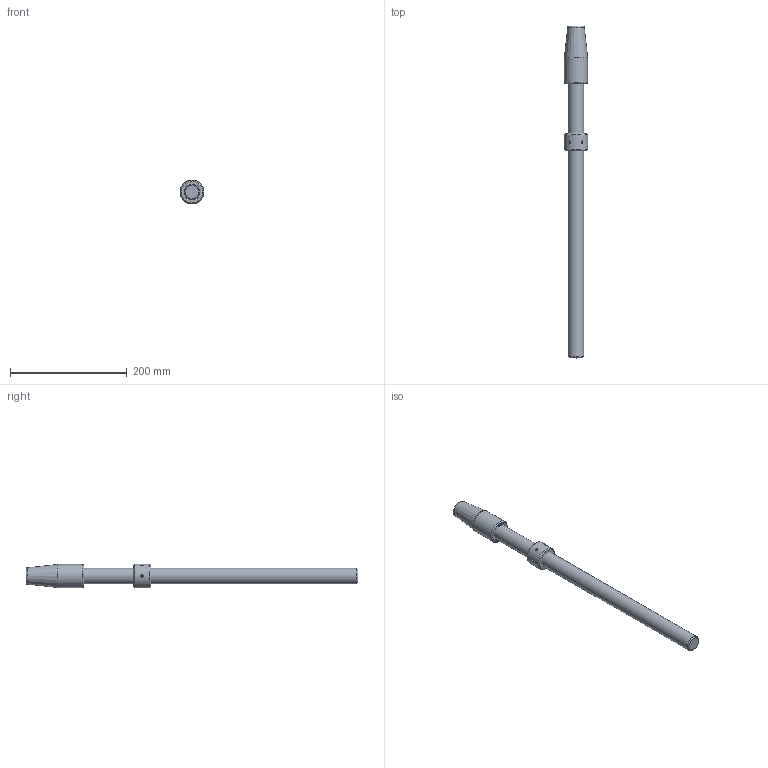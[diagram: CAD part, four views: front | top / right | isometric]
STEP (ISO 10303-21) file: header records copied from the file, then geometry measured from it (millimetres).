
FILE_DESCRIPTION(/* description */ (''),/* implementation_level */ '2;1');
FILE_NAME(/* name */ 'C:\Users\ranca\Desktop\CYM\ARRANGEMENT\CYM012 52 061 0.stp',/* time_stamp */ '2021-04-21T18:57:31+02:00',/* author */ ('ranca'),/* organization */ (''),/* preprocessor_version */ 'ST-DEVELOPER v16.13',/* originating_system */ 'Autodesk Inventor 2018',/* authorisation */ '');
FILE_SCHEMA (('AUTOMOTIVE_DESIGN { 1 0 10303 214 3 1 1 }'));
Length unit declared in the file: millimetre
Products named in the file (4): CYB012-52-061-0; CYM012-52-061-0_ROD; CYM012-52-061-0_SOK; RNT052 41 051 0_ROD
Assembly tree (3 placements, depth 2):
  CYB012-52-061-0
    CYM012-52-061-0_ROD
    CYM012-52-061-0_SOK
    RNT052 41 051 0_ROD
Bounding box: 41 x 569 x 41 mm (x, y, z)
Volume: 430647 mm3; surface area: 63058.2 mm2
Topology: 3 solids, 3 shells, 502 faces, 1354 edges, 900 vertices
Faces by surface type: bspline 248, plane 232, cone 11, cylinder 9, torus 2
Full cylindrical faces by diameter (mm): 4 x6, 27 x1, 40 x1, 41 x1
Entity records: 17077 total; most frequent: CARTESIAN_POINT 6177, ORIENTED_EDGE 2650, DIRECTION 1362, EDGE_CURVE 1325, VERTEX_POINT 894, LINE 796, VECTOR 796, EDGE_LOOP 567
